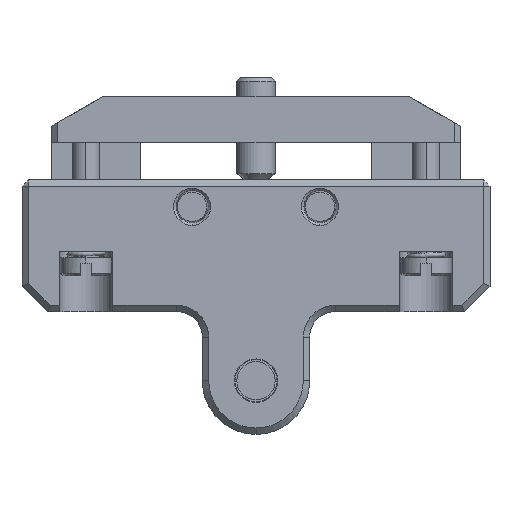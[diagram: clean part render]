
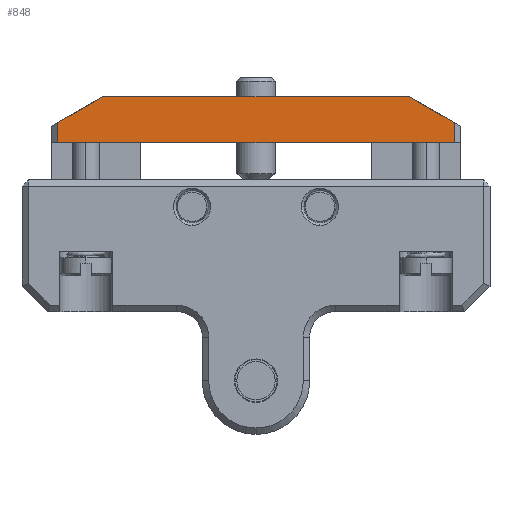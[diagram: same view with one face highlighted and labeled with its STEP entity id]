
A CAD part, front view. The second image highlights one B-rep face of the part: STEP entity #848.
In plain terms, the highlighted planar face has unit normal (0, -1, 0).
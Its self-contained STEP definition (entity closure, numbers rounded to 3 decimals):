
#110 = DIRECTION ( 'NONE',  ( -0.866, 0., 0.5 ) ) ;
#848 = ADVANCED_FACE ( 'NONE', ( #8222 ), #5584, .F. ) ;
#1262 = CARTESIAN_POINT ( 'NONE',  ( 15.5, 0.25, 6.5 ) ) ;
#1354 = ORIENTED_EDGE ( 'NONE', *, *, #14881, .T. ) ;
#3045 = VERTEX_POINT ( 'NONE', #16638 ) ;
#3080 = VERTEX_POINT ( 'NONE', #12558 ) ;
#3181 = EDGE_CURVE ( 'NONE', #14859, #4492, #3724, .T. ) ;
#3385 = VECTOR ( 'NONE', #4880, 1000. ) ;
#3460 = CARTESIAN_POINT ( 'NONE',  ( -12., 0.25, 6.5 ) ) ;
#3724 = LINE ( 'NONE', #3460, #5298 ) ;
#3732 = LINE ( 'NONE', #4955, #13977 ) ;
#3756 = ORIENTED_EDGE ( 'NONE', *, *, #10754, .T. ) ;
#4115 = AXIS2_PLACEMENT_3D ( 'NONE', #6801, #11408, #18387 ) ;
#4492 = VERTEX_POINT ( 'NONE', #8077 ) ;
#4507 = CARTESIAN_POINT ( 'NONE',  ( 16., 0.25, 4.191 ) ) ;
#4880 = DIRECTION ( 'NONE',  ( 1., 0., 0. ) ) ;
#4881 = VECTOR ( 'NONE', #110, 1000. ) ;
#4955 = CARTESIAN_POINT ( 'NONE',  ( 16., 0.25, 2.9 ) ) ;
#5280 = DIRECTION ( 'NONE',  ( 0., 0., 1. ) ) ;
#5298 = VECTOR ( 'NONE', #17642, 1000. ) ;
#5321 = EDGE_LOOP ( 'NONE', ( #10745, #5765, #1354, #7379, #13929, #3756 ) ) ;
#5514 = LINE ( 'NONE', #12651, #12320 ) ;
#5584 = PLANE ( 'NONE',  #4115 ) ;
#5765 = ORIENTED_EDGE ( 'NONE', *, *, #12358, .T. ) ;
#6249 = CARTESIAN_POINT ( 'NONE',  ( -15.5, 0.25, 2.9 ) ) ;
#6801 = CARTESIAN_POINT ( 'NONE',  ( 0., 0.25, 6.5 ) ) ;
#7025 = DIRECTION ( 'NONE',  ( 0., 0., -1. ) ) ;
#7315 = CARTESIAN_POINT ( 'NONE',  ( -12., 0.25, 6.5 ) ) ;
#7379 = ORIENTED_EDGE ( 'NONE', *, *, #14108, .F. ) ;
#8077 = CARTESIAN_POINT ( 'NONE',  ( -15.5, 0.25, 4.479 ) ) ;
#8222 = FACE_OUTER_BOUND ( 'NONE', #5321, .T. ) ;
#10327 = LINE ( 'NONE', #16200, #3385 ) ;
#10745 = ORIENTED_EDGE ( 'NONE', *, *, #18020, .F. ) ;
#10754 = EDGE_CURVE ( 'NONE', #4492, #12948, #5514, .T. ) ;
#11408 = DIRECTION ( 'NONE',  ( 0., 1., 0. ) ) ;
#12320 = VECTOR ( 'NONE', #7025, 1000. ) ;
#12358 = EDGE_CURVE ( 'NONE', #18143, #3045, #13907, .T. ) ;
#12558 = CARTESIAN_POINT ( 'NONE',  ( 12., 0.25, 6.5 ) ) ;
#12651 = CARTESIAN_POINT ( 'NONE',  ( -15.5, 0.25, 6.5 ) ) ;
#12948 = VERTEX_POINT ( 'NONE', #6249 ) ;
#13907 = LINE ( 'NONE', #1262, #18242 ) ;
#13929 = ORIENTED_EDGE ( 'NONE', *, *, #3181, .T. ) ;
#13977 = VECTOR ( 'NONE', #15326, 1000. ) ;
#14108 = EDGE_CURVE ( 'NONE', #14859, #3080, #10327, .T. ) ;
#14859 = VERTEX_POINT ( 'NONE', #7315 ) ;
#14881 = EDGE_CURVE ( 'NONE', #3045, #3080, #17122, .T. ) ;
#15326 = DIRECTION ( 'NONE',  ( -1., 0., 0. ) ) ;
#16200 = CARTESIAN_POINT ( 'NONE',  ( 16., 0.25, 6.5 ) ) ;
#16638 = CARTESIAN_POINT ( 'NONE',  ( 15.5, 0.25, 4.479 ) ) ;
#17122 = LINE ( 'NONE', #4507, #4881 ) ;
#17642 = DIRECTION ( 'NONE',  ( -0.866, 0., -0.5 ) ) ;
#17838 = CARTESIAN_POINT ( 'NONE',  ( 15.5, 0.25, 2.9 ) ) ;
#18020 = EDGE_CURVE ( 'NONE', #18143, #12948, #3732, .T. ) ;
#18143 = VERTEX_POINT ( 'NONE', #17838 ) ;
#18242 = VECTOR ( 'NONE', #5280, 1000. ) ;
#18387 = DIRECTION ( 'NONE',  ( 0., 0., -1. ) ) ;
